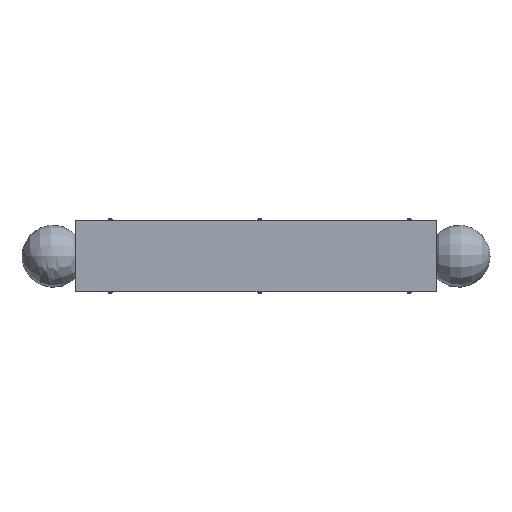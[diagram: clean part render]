
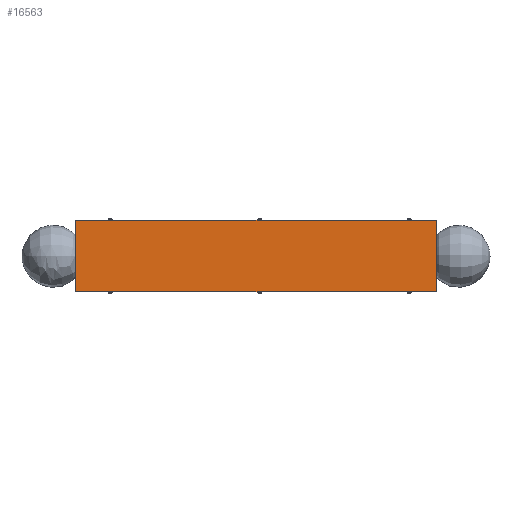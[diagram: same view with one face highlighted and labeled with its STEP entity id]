
A CAD part, top view. The second image highlights one B-rep face of the part: STEP entity #16563.
In plain terms, the highlighted planar face has unit normal (0, 0, 1).
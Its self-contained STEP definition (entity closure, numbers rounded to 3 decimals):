
#2899=FACE_OUTER_BOUND('',#4232,.T.);
#4232=EDGE_LOOP('',(#11339,#11340,#11341,#11342));
#5752=LINE('',#27621,#6603);
#5753=LINE('',#27623,#6604);
#5754=LINE('',#27625,#6605);
#5755=LINE('',#27626,#6606);
#6603=VECTOR('',#20922,10.);
#6604=VECTOR('',#20923,10.);
#6605=VECTOR('',#20924,10.);
#6606=VECTOR('',#20925,10.);
#7458=VERTEX_POINT('',#27619);
#7459=VERTEX_POINT('',#27620);
#7460=VERTEX_POINT('',#27622);
#7461=VERTEX_POINT('',#27624);
#8949=EDGE_CURVE('',#7458,#7459,#5752,.T.);
#8950=EDGE_CURVE('',#7460,#7459,#5753,.T.);
#8951=EDGE_CURVE('',#7460,#7461,#5754,.T.);
#8952=EDGE_CURVE('',#7458,#7461,#5755,.T.);
#11339=ORIENTED_EDGE('',*,*,#8949,.T.);
#11340=ORIENTED_EDGE('',*,*,#8950,.F.);
#11341=ORIENTED_EDGE('',*,*,#8951,.T.);
#11342=ORIENTED_EDGE('',*,*,#8952,.F.);
#16053=PLANE('',#18084);
#16563=ADVANCED_FACE('',(#2899),#16053,.T.);
#18084=AXIS2_PLACEMENT_3D('',#27618,#20920,#20921);
#20920=DIRECTION('center_axis',(0.,0.,
1.));
#20921=DIRECTION('ref_axis',(0.,-1.,0.));
#20922=DIRECTION('',(1.,0.,0.));
#20923=DIRECTION('',(0.,-1.,0.));
#20924=DIRECTION('',(-1.,0.,0.));
#20925=DIRECTION('',(0.,1.,0.));
#27618=CARTESIAN_POINT('Origin',(-577.429,-113.5,40.));
#27619=CARTESIAN_POINT('',(-579.,-115.,40.));
#27620=CARTESIAN_POINT('',(579.,-115.,40.));
#27621=CARTESIAN_POINT('',(-577.429,-115.,40.));
#27622=CARTESIAN_POINT('',(579.,115.,40.));
#27623=CARTESIAN_POINT('',(579.,-57.5,40.));
#27624=CARTESIAN_POINT('',(-579.,115.,40.));
#27625=CARTESIAN_POINT('',(577.429,115.,40.));
#27626=CARTESIAN_POINT('',(-579.,57.5,40.));
